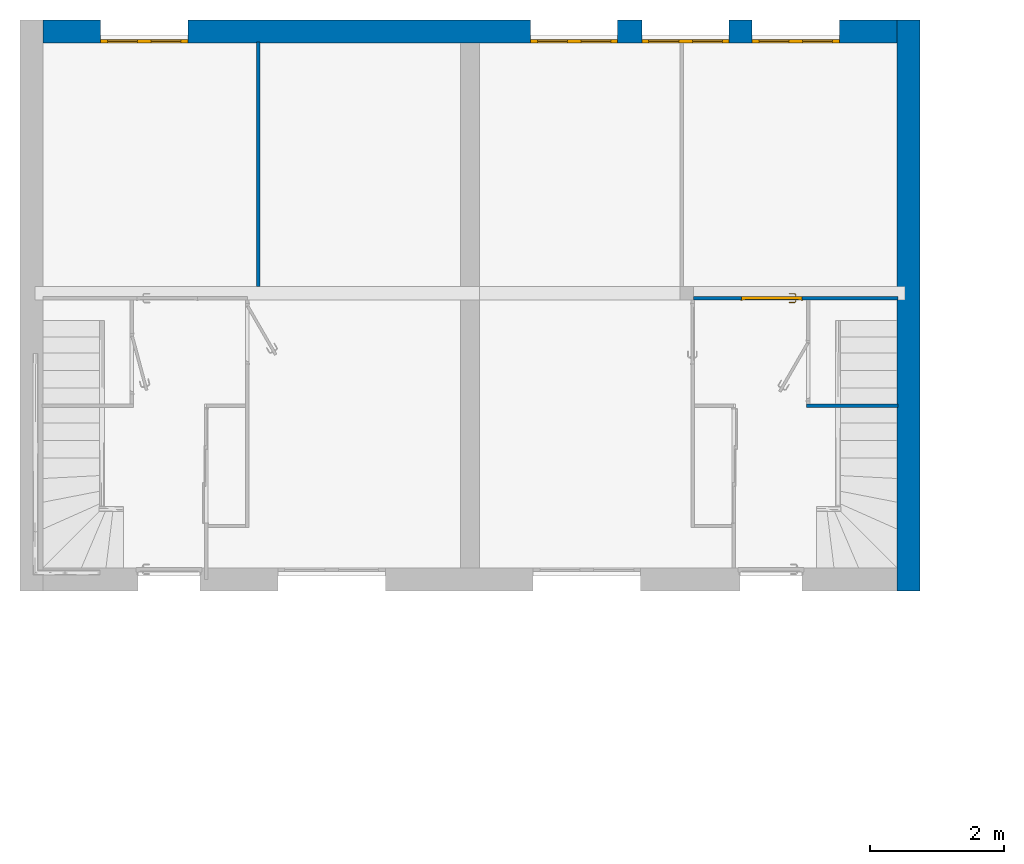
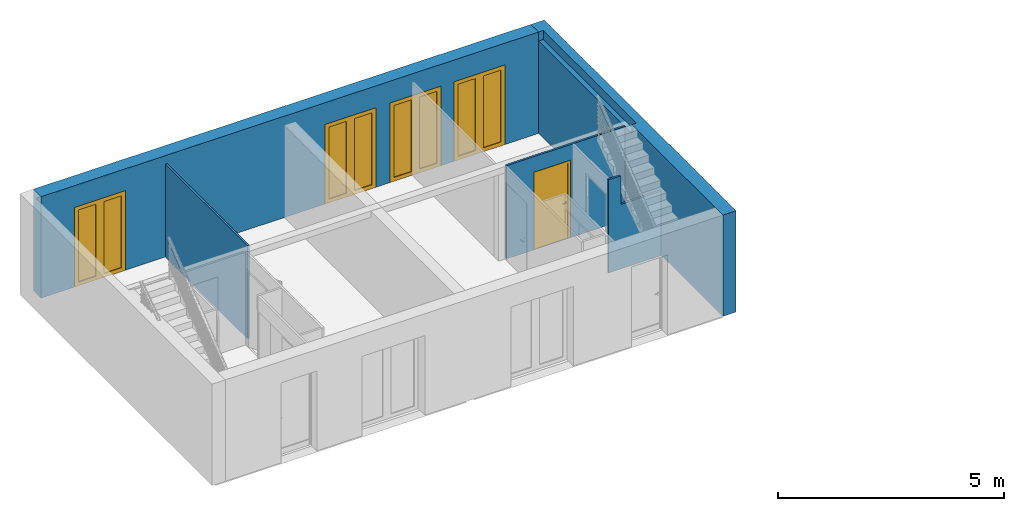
# One storey, part 5 of 12: 5 doors, 5 walls, 8 openings.
"""IFC2X3 building model written with IfcOpenShell, lengths in metres."""

from ifc_helpers import new_model, entity, si_unit, converted_unit, derived_unit, direction, frame, frame_2d, origin, origin_2d_with_axis, place, context, subcontext, project, spatial, polyline, rectangle, outline, extrude, faceted_brep, source, transform, mapped, material, material_list, layer, layer_set, layer_usage, type_object, type_shapes, element, fill, save


model = new_model("IFC2X3")

# Units and contexts
model_context = context("Model", 3, precision=1e-05, world=origin(), true_north=direction((6.12303176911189e-17, 1.0)))
context_of_model = context(None, 3, precision=1e-05, world=origin(), true_north=direction((6.12303176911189e-17, 1.0)))
body_context = subcontext(model_context, "Body", "Model", "MODEL_VIEW")
ifc_project = project(units=[si_unit("LENGTHUNIT", "METRE"), si_unit("AREAUNIT", "SQUARE_METRE"), si_unit("VOLUMEUNIT", "CUBIC_METRE"), converted_unit("PLANEANGLEUNIT", "DEGREE", entity("IfcRatioMeasure", 0.0174532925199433), si_unit("PLANEANGLEUNIT", "RADIAN"), dimensions=[0, 0, 0, 0, 0, 0, 0]), si_unit("MASSUNIT", "GRAM", prefix="KILO"), si_unit("TIMEUNIT", "SECOND"), si_unit("FREQUENCYUNIT", "HERTZ"), si_unit("THERMODYNAMICTEMPERATUREUNIT", "DEGREE_CELSIUS"), derived_unit("THERMALTRANSMITTANCEUNIT", [(si_unit("MASSUNIT", "GRAM", prefix="KILO"), 1), (si_unit("THERMODYNAMICTEMPERATUREUNIT", "KELVIN"), -1), (si_unit("TIMEUNIT", "SECOND"), -3)]), derived_unit("VOLUMETRICFLOWRATEUNIT", [(si_unit("LENGTHUNIT", "METRE"), 3), (si_unit("TIMEUNIT", "SECOND"), -1)]), si_unit("ELECTRICCURRENTUNIT", "AMPERE"), si_unit("ELECTRICVOLTAGEUNIT", "VOLT"), si_unit("POWERUNIT", "WATT"), si_unit("FORCEUNIT", "NEWTON", prefix="KILO"), si_unit("ILLUMINANCEUNIT", "LUX"), si_unit("LUMINOUSFLUXUNIT", "LUMEN"), si_unit("LUMINOUSINTENSITYUNIT", "CANDELA"), derived_unit("USERDEFINED", [(si_unit("MASSUNIT", "GRAM", prefix="KILO"), -1), (si_unit("LENGTHUNIT", "METRE"), -2), (si_unit("TIMEUNIT", "SECOND"), 3), (si_unit("LUMINOUSFLUXUNIT", "LUMEN"), 1)]), derived_unit("LINEARVELOCITYUNIT", [(si_unit("LENGTHUNIT", "METRE"), 1), (si_unit("TIMEUNIT", "SECOND"), -1)]), si_unit("PRESSUREUNIT", "PASCAL"), derived_unit("USERDEFINED", [(si_unit("LENGTHUNIT", "METRE"), -2), (si_unit("MASSUNIT", "GRAM", prefix="KILO"), 1), (si_unit("TIMEUNIT", "SECOND"), -2)])], contexts=[model_context, context_of_model])

# Site, building, storey
site_placement = place(None, origin())
site = spatial("IfcSite", under=ifc_project, at=site_placement, Name="Surface", CompositionType="ELEMENT")
building_placement = place(site_placement, origin())
building = spatial("IfcBuilding", under=site, at=building_placement, CompositionType="ELEMENT")
storey_placement = place(building_placement, origin())
storey = spatial("IfcBuildingStorey", under=building, at=storey_placement, Name="Rez de chaussée", CompositionType="ELEMENT", Elevation=0.0)

# Wall, openings
ifc_material_1 = material(Name="Maçonnerie - Isolant(1)")
ifc_layer_1 = layer(ifc_material_1, 0.05)
ifc_layer_set_1 = layer_set([ifc_layer_1], Name="Mur de base:Int. plâtre 50 mm")
ifc_layer_usage_1 = layer_usage(ifc_layer_set_1, "AXIS2", "NEGATIVE", 0.025)
wall_type_1 = type_object("IfcWallType", Name="Mur de base:Int. plâtre 50 mm", PredefinedType="STANDARD", material=ifc_layer_set_1)
wall_1_placement = place(storey_placement, frame((1.43391118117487, -0.0607442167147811, -0.00999999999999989), z_axis=(0.0, 0.0, 1.0), x_axis=(-1.0, 0.0, 0.0)))
wall_1 = element("IfcWallStandardCase", 1, at=wall_1_placement, inside=storey, type_object=wall_type_1, material=ifc_layer_usage_1, Name="Mur de base:Int. plâtre 50 mm", ObjectType="Mur de base:Int. plâtre 50 mm", context=body_context, shape_type="SweptSolid", body=[
    extrude(rectangle(XDim=1.35999999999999, YDim=0.05, at=frame_2d((0.679999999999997, -3.46944695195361e-18), x_axis=(-1.0, 0.0))), origin(), (0.0, 0.0, 1.0), 2.52),
])
opening_1_placement = place(wall_1_placement, origin())
element("IfcOpeningElement", 2, at=opening_1_placement, cuts=wall_1, Name="Mur de base:Int. plâtre 50 mm", ObjectType="Opening", context=body_context, shape_type="SweptSolid", body=[
    extrude(rectangle(XDim=3.12955139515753, YDim=6.25910279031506, at=frame_2d((-3.33066907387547e-16, -2.22044604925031e-16), x_axis=(1.0, 0.0))), frame((-1.21361778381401, -3.12955139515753, 2.92700669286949), z_axis=(0.0, 1.0, 0.0), x_axis=(0.540430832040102, 0.0, -0.841388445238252)), (0.0, 0.0, 1.0), 6.25910279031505),
])
opening_2_placement = place(wall_1_placement, origin())
element("IfcOpeningElement", 3, at=opening_2_placement, cuts=wall_1, Name="Mur de base:Int. plâtre 50 mm", ObjectType="Opening", context=body_context, shape_type="SweptSolid", body=[
    extrude(outline(polyline([(-0.515555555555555, -0.401330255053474), (0.257777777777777, -0.401330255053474), (0.257777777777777, 0.802660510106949), (-0.515555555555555, -0.401330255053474)])), frame((0.642660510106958, -0.025, 2.00177777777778), z_axis=(0.0, 1.0, 0.0), x_axis=(0.0, 0.0, -1.0)), (0.0, 0.0, 1.0), 0.05),
])

# Wall
ifc_layer_usage_2 = layer_usage(ifc_layer_set_1, "AXIS2", "NEGATIVE", 0.025)
wall_2_placement = place(storey_placement, frame((-8.09108881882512, 5.35425578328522, -0.00999999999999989), z_axis=(0.0, 0.0, 1.0), x_axis=(0.0, -1.0, 0.0)))
element("IfcWallStandardCase", 4, at=wall_2_placement, inside=storey, type_object=wall_type_1, material=ifc_layer_usage_2, Name="Mur de base:Int. plâtre 50 mm", ObjectType="Mur de base:Int. plâtre 50 mm", context=body_context, shape_type="SweptSolid", body=[
    extrude(rectangle(XDim=3.64, YDim=0.0499999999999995, at=frame_2d((1.82, 0.0), x_axis=(-1.0, 0.0))), origin(), (0.0, 0.0, 1.0), 2.52),
])

# Wall, opening, door
ifc_layer_usage_3 = layer_usage(ifc_layer_set_1, "AXIS2", "NEGATIVE", 0.025)
wall_3_placement = place(storey_placement, frame((-1.60608881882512, 1.53925578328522, -0.00999999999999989)))
wall_3 = element("IfcWallStandardCase", 5, at=wall_3_placement, inside=storey, type_object=wall_type_1, material=ifc_layer_usage_3, Name="Mur de base:Int. plâtre 50 mm", ObjectType="Mur de base:Int. plâtre 50 mm", context=body_context, shape_type="SweptSolid", body=[
    extrude(rectangle(XDim=3.03999999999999, YDim=0.05, at=frame_2d((1.52, 0.0), x_axis=(-1.0, 0.0))), origin(), (0.0, 0.0, 1.0), 2.52),
])
opening_3_placement = place(wall_3_placement, frame((0.714999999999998, -0.025, 0.00999999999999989)))
opening_3 = element("IfcOpeningElement", 6, at=opening_3_placement, cuts=wall_3, Name="Int. Simple:PP (0.83m x 2.04m):1", ObjectType="Opening", context=body_context, shape_type="SweptSolid", body=[
    extrude(rectangle(XDim=2.075, YDim=0.9, at=frame_2d((1.0375, 0.45), x_axis=(1.0, 0.0))), frame((0.0, 0.0, 0.0), z_axis=(0.0, 1.0, 0.0), x_axis=(0.0, 0.0, 1.0)), (0.0, 0.0, 1.0), 0.05),
])
ifc_material_2 = material(Name="Finition Peinture - Blanc satiné")
ifc_material_3 = material(Name="Bois - Panneau de porte")
ifc_material_4 = material(Name="Bois - Cadre de porte")
ifc_material_list_1 = material_list([ifc_material_2, ifc_material_3, ifc_material_4])
ifc_material_list_2 = material_list([ifc_material_2, ifc_material_3, ifc_material_4])
door_style_1 = type_object("IfcDoorStyle", Name="PP (0.83m x 2.04m)", ConstructionType="NOTDEFINED", OperationType="SINGLE_SWING_LEFT", ParameterTakesPrecedence=False, Sizeable=False, material=ifc_material_list_2)
shared_shape_1 = source(origin(), body_context, "Body", "Brep", [
    faceted_brep([(0.105352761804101, -0.00500000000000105, 0.866003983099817), (0.115, -0.00500000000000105, 0.870000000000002), (0.114999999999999, -0.00500000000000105, 1.08), (0.1053527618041, -0.00500000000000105, 1.08399601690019), (0.0949999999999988, -0.00500000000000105, 1.08535898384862), (0.0846472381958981, -0.00500000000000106, 1.08399601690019), (0.0749999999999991, -0.00500000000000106, 1.08), (0.0750000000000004, -0.00500000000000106, 0.870000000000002), (0.0846472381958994, -0.00500000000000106, 0.866003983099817), (0.0950000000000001, -0.00500000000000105, 0.86464101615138), (0.1053527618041, 0.0, 1.08399601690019), (0.114999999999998, 0.0, 1.08), (0.115, 0.0, 0.870000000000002), (0.105352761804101, 0.0, 0.866003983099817), (0.0950000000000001, 0.0, 0.86464101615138), (0.0846472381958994, 0.0, 0.866003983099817), (0.0749999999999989, 0.0, 0.870000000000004), (0.0749999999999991, 0.0, 1.08), (0.0846472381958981, 0.0, 1.08399601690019), (0.0949999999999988, 0.0, 1.08535898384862)], [[[0, 1, 2, 3, 4, 5, 6, 7, 8, 9]], [[10, 11, 12, 13, 14, 15, 16, 17, 18, 19]], [[16, 15, 8, 7]], [[8, 15, 14, 9]], [[14, 13, 0, 9]], [[13, 12, 1, 0]], [[2, 1, 12, 11]], [[11, 10, 3, 2]], [[3, 10, 19, 4]], [[19, 18, 5, 4]], [[18, 17, 6, 5]], [[7, 6, 17, 16]]]),
    faceted_brep([(0.105352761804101, 0.0399999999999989, 0.866003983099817), (0.115, 0.0399999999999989, 0.870000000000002), (0.114999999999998, 0.0399999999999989, 1.08), (0.105352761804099, 0.0399999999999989, 1.08399601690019), (0.0949999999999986, 0.0399999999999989, 1.08535898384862), (0.084647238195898, 0.0399999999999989, 1.08399601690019), (0.0749999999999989, 0.0399999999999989, 1.08), (0.0750000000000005, 0.0399999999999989, 0.870000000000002), (0.0846472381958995, 0.0399999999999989, 0.866003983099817), (0.0950000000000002, 0.0399999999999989, 0.86464101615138), (0.105352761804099, 0.0449999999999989, 1.08399601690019), (0.114999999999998, 0.0449999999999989, 1.08), (0.115, 0.0449999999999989, 0.870000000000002), (0.105352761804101, 0.0449999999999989, 0.866003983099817), (0.0950000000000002, 0.0449999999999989, 0.86464101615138), (0.0846472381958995, 0.0449999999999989, 0.866003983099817), (0.0749999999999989, 0.0449999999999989, 0.870000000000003), (0.0749999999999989, 0.0449999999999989, 1.08), (0.084647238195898, 0.0449999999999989, 1.08399601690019), (0.0949999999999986, 0.0449999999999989, 1.08535898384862)], [[[0, 1, 2, 3, 4, 5, 6, 7, 8, 9]], [[10, 11, 12, 13, 14, 15, 16, 17, 18, 19]], [[11, 10, 3, 2]], [[3, 10, 19, 4]], [[19, 18, 5, 4]], [[18, 17, 6, 5]], [[7, 6, 17, 16]], [[16, 15, 8, 7]], [[8, 15, 14, 9]], [[14, 13, 0, 9]], [[13, 12, 1, 0]], [[2, 1, 12, 11]]]),
    faceted_brep([(0.0929747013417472, -0.00500000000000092, 1.00778044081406), (0.0970252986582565, -0.0050000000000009, 1.00778044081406), (0.101000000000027, -0.00500000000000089, 1.00699999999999), (0.101000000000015, -0.00500000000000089, 0.993000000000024), (0.0970252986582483, -0.0050000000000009, 0.992219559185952), (0.0929747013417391, -0.00500000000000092, 0.99221955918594), (0.0889999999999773, -0.00500000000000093, 0.992999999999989), (0.0889999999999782, -0.00500000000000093, 1.007), (0.0889999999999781, -0.0326509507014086, 1.007), (0.092974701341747, -0.0310045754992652, 1.00778044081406), (0.10902358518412, -0.0470534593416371, 1.00778044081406), (0.110701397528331, -0.0430028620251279, 1.00778044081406), (0.0970252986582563, -0.0293267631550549, 1.00778044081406), (0.101000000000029, -0.0276803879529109, 1.007), (0.101000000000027, -0.0276803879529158, 0.993000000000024), (0.0970252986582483, -0.0293267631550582, 0.992219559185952), (0.110701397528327, -0.0430028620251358, 0.992219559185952), (0.109023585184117, -0.047053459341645, 0.99221955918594), (0.0929747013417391, -0.0310045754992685, 0.99221955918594), (0.0889999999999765, -0.0326509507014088, 0.992999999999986), (0.107377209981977, -0.0510281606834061, 1.007), (0.112347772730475, -0.0390281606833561, 1.007), (0.112347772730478, -0.0390281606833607, 0.993000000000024), (0.107377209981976, -0.0510281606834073, 0.992999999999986), (0.195018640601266, -0.0510281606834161, 0.992999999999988), (0.195018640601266, -0.0470534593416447, 0.99221955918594), (0.195018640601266, -0.0430028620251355, 0.992219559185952), (0.195018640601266, -0.039028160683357, 0.993000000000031), (0.195018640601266, -0.0390281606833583, 1.007), (0.195018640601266, -0.0430028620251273, 1.00778044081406), (0.195018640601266, -0.0470534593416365, 1.00778044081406), (0.195018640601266, -0.0510281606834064, 1.00699999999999), (0.147307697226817, -0.0510281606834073, 1.007), (0.152860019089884, -0.045028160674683, 1.0078786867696), (0.15368320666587, -0.039028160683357, 1.007), (0.153683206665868, -0.0390281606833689, 0.993000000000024), (0.152860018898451, -0.0450281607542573, 0.992121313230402), (0.147307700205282, -0.0510281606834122, 0.992999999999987)], [[[0, 1, 2, 3, 4, 5, 6, 7]], [[8, 9, 0, 7]], [[9, 10, 11, 12, 1, 0]], [[12, 13, 2, 1]], [[3, 2, 13, 14]], [[14, 15, 4, 3]], [[15, 16, 17, 18, 5, 4]], [[18, 19, 6, 5]], [[7, 6, 19, 8]], [[20, 10, 9, 8]], [[11, 21, 13, 12]], [[14, 13, 21, 22]], [[22, 16, 15, 14]], [[17, 23, 19, 18]], [[8, 19, 23, 20]], [[24, 25, 26, 27, 28, 29, 30, 31]], [[32, 30, 33]], [[31, 30, 32]], [[10, 20, 32]], [[33, 34, 11]], [[21, 11, 34]], [[34, 29, 28]], [[30, 29, 33]], [[29, 34, 33]], [[10, 32, 33]], [[10, 33, 11]], [[22, 21, 34, 28, 27, 35]], [[35, 26, 36]], [[37, 36, 25]], [[22, 35, 16]], [[35, 27, 26]], [[24, 37, 25]], [[23, 17, 37]], [[37, 17, 36]], [[17, 16, 36]], [[16, 35, 36]], [[25, 36, 26]], [[20, 23, 37, 24, 31, 32]]]),
    faceted_brep([(0.0929747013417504, 0.0449999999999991, 1.00778044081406), (0.0889999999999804, 0.044999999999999, 1.007), (0.0889999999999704, 0.044999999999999, 0.992999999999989), (0.0929747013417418, 0.0449999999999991, 0.99221955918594), (0.0970252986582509, 0.0449999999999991, 0.992219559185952), (0.10100000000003, 0.0449999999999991, 0.993000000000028), (0.101000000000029, 0.0449999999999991, 1.007), (0.0970252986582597, 0.0449999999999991, 1.00778044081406), (0.10100000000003, 0.067485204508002, 0.993000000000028), (0.10100000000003, 0.0674852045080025, 1.007), (0.0970252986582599, 0.0691315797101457, 1.00778044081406), (0.110838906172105, 0.0829451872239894, 1.00778044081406), (0.109161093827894, 0.0869957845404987, 1.00778044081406), (0.0929747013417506, 0.070809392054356, 1.00778044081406), (0.0889999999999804, 0.0724557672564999, 1.007), (0.0889999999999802, 0.072455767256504, 0.992999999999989), (0.0929747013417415, 0.0708093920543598, 0.99221955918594), (0.109161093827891, 0.0869957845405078, 0.99221955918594), (0.110838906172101, 0.0829451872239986, 0.992219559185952), (0.0970252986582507, 0.0691315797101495, 0.992219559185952), (0.112485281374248, 0.0789704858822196, 0.993000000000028), (0.112485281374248, 0.0789704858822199, 1.007), (0.107514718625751, 0.0909704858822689, 1.007), (0.107514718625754, 0.090970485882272, 0.992999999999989), (0.195045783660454, 0.0789704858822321, 0.993000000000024), (0.195045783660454, 0.0829451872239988, 0.992219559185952), (0.195045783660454, 0.086995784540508, 0.99221955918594), (0.195045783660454, 0.0909704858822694, 0.992999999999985), (0.195045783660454, 0.0909704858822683, 1.007), (0.195045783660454, 0.0869957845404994, 1.00778044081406), (0.195045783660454, 0.0829451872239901, 1.00778044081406), (0.195045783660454, 0.0789704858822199, 1.007), (0.153765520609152, 0.0789704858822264, 0.993000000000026), (0.153765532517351, 0.0789704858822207, 1.007), (0.152942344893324, 0.0849704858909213, 1.0078786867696), (0.147445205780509, 0.0909704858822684, 1.007), (0.147445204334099, 0.0909704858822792, 0.992999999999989), (0.152942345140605, 0.0849704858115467, 0.992121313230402)], [[[0, 1, 2, 3, 4, 5, 6, 7]], [[6, 5, 8, 9]], [[9, 10, 7, 6]], [[10, 11, 12, 13, 0, 7]], [[13, 14, 1, 0]], [[2, 1, 14, 15]], [[15, 16, 3, 2]], [[16, 17, 18, 19, 4, 3]], [[19, 8, 5, 4]], [[9, 8, 20, 21]], [[21, 11, 10, 9]], [[12, 22, 14, 13]], [[15, 14, 22, 23]], [[23, 17, 16, 15]], [[18, 20, 8, 19]], [[24, 25, 26, 27, 28, 29, 30, 31]], [[21, 20, 32, 24, 31, 33]], [[33, 30, 34]], [[35, 34, 29]], [[21, 33, 11]], [[33, 31, 30]], [[28, 35, 29]], [[22, 12, 35]], [[35, 12, 34]], [[12, 11, 34]], [[11, 33, 34]], [[29, 34, 30]], [[22, 35, 28, 27, 36, 23]], [[36, 26, 37]], [[27, 26, 36]], [[17, 23, 36]], [[37, 32, 18]], [[20, 18, 32]], [[32, 25, 24]], [[26, 25, 37]], [[25, 32, 37]], [[17, 36, 37]], [[17, 37, 18]]]),
    faceted_brep([(0.034999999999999, 0.04, 2.04), (0.865, 0.04, 2.04), (0.864999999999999, 0.04, 0.0), (0.034999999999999, 0.04, 0.0), (0.034999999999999, 0.0, 2.04), (0.034999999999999, 0.0, 0.0), (0.864999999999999, 0.0, 0.0), (0.865, 0.0, 2.04)], [[[0, 1, 2, 3]], [[4, 5, 6, 7]], [[1, 0, 4, 7]], [[2, 1, 7, 6]], [[3, 2, 6, 5]], [[0, 3, 5, 4]]]),
    faceted_brep([(0.0, 0.0, 0.0), (0.0, 0.050000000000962, 0.0), (0.0499999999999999, 0.050000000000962, 0.0), (0.0499999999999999, 0.040000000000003, 0.0), (0.0349999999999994, 0.040000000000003, 0.0), (0.0349999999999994, 0.0, 0.0), (0.0, 0.0, 2.07500000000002), (0.0, 0.050000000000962, 2.07500000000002), (0.900000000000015, 0.050000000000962, 2.07500000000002), (0.900000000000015, 0.050000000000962, 0.0), (0.85, 0.050000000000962, 0.0), (0.85, 0.050000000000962, 2.025), (0.0500000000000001, 0.050000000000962, 2.025), (0.05, 0.040000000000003, 2.025), (0.85, 0.040000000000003, 2.025), (0.85, 0.040000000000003, 0.0), (0.865, 0.040000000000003, 0.0), (0.865, 0.040000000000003, 2.04), (0.0349999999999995, 0.040000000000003, 2.04), (0.0349999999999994, 0.0, 2.04), (0.865, 0.0, 2.04), (0.865, 0.0, 0.0), (0.900000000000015, 0.0, 0.0), (0.900000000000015, 0.0, 2.07500000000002)], [[[0, 1, 2, 3, 4, 5]], [[1, 0, 6, 7]], [[2, 1, 7, 8, 9, 10, 11, 12]], [[3, 2, 12, 13]], [[4, 3, 13, 14, 15, 16, 17, 18]], [[5, 4, 18, 19]], [[0, 5, 19, 20, 21, 22, 23, 6]], [[8, 23, 22, 9]], [[22, 21, 16, 15, 10, 9]], [[14, 11, 10, 15]], [[20, 17, 16, 21]], [[7, 6, 23, 8]], [[13, 12, 11, 14]], [[19, 18, 17, 20]]]),
    faceted_brep([(0.0149999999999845, 0.050000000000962, 0.0), (-0.0150000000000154, 0.050000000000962, 0.0), (-0.0150000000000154, 0.055000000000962, 0.0), (0.0149999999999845, 0.055000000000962, 0.0), (0.0149999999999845, 0.050000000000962, 2.06000000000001), (0.884999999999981, 0.050000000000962, 2.06000000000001), (0.88499999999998, 0.050000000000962, 0.0), (0.91499999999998, 0.050000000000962, 0.0), (0.91499999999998, 0.050000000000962, 2.09000000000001), (-0.0150000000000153, 0.050000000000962, 2.09000000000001), (-0.0150000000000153, 0.055000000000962, 2.09000000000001), (0.91499999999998, 0.055000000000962, 2.09000000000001), (0.91499999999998, 0.055000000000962, 0.0), (0.88499999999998, 0.055000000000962, 0.0), (0.88499999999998, 0.055000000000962, 2.06000000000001), (0.0149999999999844, 0.055000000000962, 2.06000000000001)], [[[0, 1, 2, 3]], [[1, 0, 4, 5, 6, 7, 8, 9]], [[2, 1, 9, 10]], [[3, 2, 10, 11, 12, 13, 14, 15]], [[0, 3, 15, 4]], [[6, 13, 12, 7]], [[5, 14, 13, 6]], [[11, 8, 7, 12]], [[10, 9, 8, 11]], [[4, 15, 14, 5]]]),
    faceted_brep([(-0.0150000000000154, -0.005, 0.0), (0.0149999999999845, -0.005, 0.0), (0.0149999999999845, -0.005, 2.06000000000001), (0.884999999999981, -0.005, 2.06000000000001), (0.88499999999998, -0.005, 0.0), (0.91499999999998, -0.005, 0.0), (0.91499999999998, -0.005, 2.09000000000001), (-0.0150000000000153, -0.005, 2.09000000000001), (-0.0150000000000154, 0.0, 0.0), (-0.0150000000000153, 0.0, 2.09000000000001), (0.0149999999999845, 0.0, 0.0), (0.91499999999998, 0.0, 2.09000000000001), (0.91499999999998, 0.0, 0.0), (0.88499999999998, 0.0, 0.0), (0.88499999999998, 0.0, 2.06000000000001), (0.0149999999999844, 0.0, 2.06000000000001)], [[[0, 1, 2, 3, 4, 5, 6, 7]], [[8, 0, 7, 9]], [[10, 8, 9, 11, 12, 13, 14, 15]], [[1, 10, 15, 2]], [[3, 14, 13, 4]], [[11, 6, 5, 12]], [[9, 7, 6, 11]], [[2, 15, 14, 3]], [[4, 13, 12, 5]], [[1, 0, 8, 10]]]),
])
type_shapes(door_style_1, [shared_shape_1])
door_1_placement = place(opening_3_placement, frame((0.9, 0.0499999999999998, 0.0), z_axis=(0.0, 0.0, 1.0), x_axis=(-1.0, 0.0, 0.0)))
door_1 = element("IfcDoor", 7, at=door_1_placement, inside=storey, type_object=door_style_1, material=ifc_material_list_1, Name="Int. Simple:PP (0.83m x 2.04m)", ObjectType="PP (0.83m x 2.04m)", OverallHeight=2.075, OverallWidth=0.9, context=body_context, shape_type="MappedRepresentation", body=[
    mapped(shared_shape_1, transform((0.0, 0.0, 0.0), scale=1.0)),
])
fill(opening_3, door_1)

# Wall, opening
ifc_material_5 = material(Name="Maçonnerie - Enduit")
ifc_layer_2 = layer(ifc_material_5, 0.02)
ifc_material_6 = material(Name="Maçonnerie - Parpaing")
ifc_layer_3 = layer(ifc_material_6, 0.2)
ifc_material_7 = material(Name="Maçonnerie - Isolant")
ifc_layer_4 = layer(ifc_material_7, 0.11)
ifc_material_8 = material(Name="Maçonnerie - Isolant 1")
ifc_layer_5 = layer(ifc_material_8, 0.01)
ifc_layer_set_2 = layer_set([ifc_layer_2, ifc_layer_3, ifc_layer_4, ifc_layer_5], Name="Mur de base:Mur de base Ext. Parpaing 20 + Isolant 12")
ifc_layer_usage_4 = layer_usage(ifc_layer_set_2, "AXIS2", "NEGATIVE", 0.17)
wall_type_2 = type_object("IfcWallType", Name="Mur de base:Mur de base Ext. Parpaing 20 + Isolant 12", PredefinedType="STANDARD", material=ifc_layer_set_2)
wall_4_placement = place(storey_placement, frame((1.59391118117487, 5.68425578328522, 0.0), z_axis=(0.0, 0.0, 1.0), x_axis=(0.0, -1.0, 0.0)))
wall_4 = element("IfcWallStandardCase", 8, at=wall_4_placement, inside=storey, type_object=wall_type_2, material=ifc_layer_usage_4, Name="Mur de base:Mur de base Ext. Parpaing 20 + Isolant 12", ObjectType="Mur de base:Mur de base Ext. Parpaing 20 + Isolant 12", context=body_context, shape_type="SweptSolid", body=[
    extrude(rectangle(XDim=8.50000000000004, YDim=0.34, at=frame_2d((4.25000000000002, 0.0), x_axis=(-1.0, 0.0))), origin(), (0.0, 0.0, 1.0), 2.74),
])
opening_4_placement = place(wall_4_placement, frame((8.50000000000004, -0.17, 2.498)))
element("IfcOpeningElement", 9, at=opening_4_placement, cuts=wall_4, Name="Mur de base:Mur de base Ext. Parpaing 20 + Isolant 12", ObjectType="Recess", context=body_context, shape_type="Brep", body=[
    faceted_brep([(-4.03171265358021, 0.0, 8.91925297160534), (-4.03171265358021, 0.12, 8.91925297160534), (-8.16, 0.12, 8.91925297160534), (-8.16, 0.0, 8.91925297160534), (-4.03171265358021, 0.0, 0.0), (-8.16, 0.0, 0.0), (-8.16, 0.12, 0.0), (-4.03171265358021, 0.12, 0.0), (-4.03171265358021, 0.12, 0.242000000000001), (-4.03171265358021, 0.0, 0.242000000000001), (-8.16, 0.12, 0.242000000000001), (-8.16, 0.12, 9.16125297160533), (-8.16, 0.34, 9.16125297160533), (-8.16, 0.34, 0.242000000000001), (0.0, 0.0, 0.242000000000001), (0.0, 0.0, 9.16125297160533), (-4.03171265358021, 0.0, 9.16125297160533), (0.0, 0.34, 9.16125297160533), (-4.03171265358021, 0.12, 9.16125297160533), (0.0, 0.34, 0.242000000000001)], [[[0, 1, 2, 3]], [[4, 5, 6, 7]], [[7, 8, 9, 4]], [[6, 10, 8, 7]], [[2, 11, 12, 13, 10, 6, 5, 3]], [[3, 5, 4, 9, 14, 15, 16, 0]], [[15, 17, 12, 11, 18, 16]], [[9, 8, 10, 13, 19, 14]], [[14, 19, 17, 15]], [[18, 1, 0, 16]], [[17, 19, 13, 12]], [[2, 1, 18, 11]]]),
])

# Wall, openings, doors
ifc_layer_usage_5 = layer_usage(ifc_layer_set_2, "AXIS2", "NEGATIVE", 0.17)
wall_5_placement = place(storey_placement, frame((-11.2960888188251, 5.51425578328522, 0.0)))
wall_5 = element("IfcWallStandardCase", 10, at=wall_5_placement, inside=storey, type_object=wall_type_2, material=ifc_layer_usage_5, Name="Mur de base:Mur de base Ext. Parpaing 20 + Isolant 12", ObjectType="Mur de base:Mur de base Ext. Parpaing 20 + Isolant 12", context=body_context, shape_type="SweptSolid", body=[
    extrude(rectangle(XDim=12.72, YDim=0.340000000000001, at=frame_2d((6.35999999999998, 0.0), x_axis=(-1.0, 0.0))), origin(), (0.0, 0.0, 1.0), 2.74),
])
opening_5_placement = place(wall_5_placement, frame((8.56, 0.169999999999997, 0.0)))
opening_5 = element("IfcOpeningElement", 11, at=opening_5_placement, cuts=wall_5, Name="Double-Glass 1_no trim:PF 1.30 x 2.15:1", ObjectType="Opening", context=body_context, shape_type="SweptSolid", body=[
    extrude(rectangle(XDim=1.3, YDim=2.15, at=frame_2d((1.075, 0.65), x_axis=(0.0, 1.0))), frame((0.0, 0.0, 0.0), z_axis=(0.0, -1.0, 0.0), x_axis=(0.0, 0.0, 1.0)), (0.0, 0.0, 1.0), 0.34),
])
opening_6_placement = place(wall_5_placement, frame((11.86, 0.169999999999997, 0.0)))
opening_6 = element("IfcOpeningElement", 12, at=opening_6_placement, cuts=wall_5, Name="Double-Glass 1_no trim:PF 1.30 x 2.15:1", ObjectType="Opening", context=body_context, shape_type="SweptSolid", body=[
    extrude(rectangle(XDim=1.3, YDim=2.15, at=frame_2d((1.075, 0.65), x_axis=(0.0, 1.0))), frame((0.0, 0.0, 0.0), z_axis=(0.0, -1.0, 0.0), x_axis=(0.0, 0.0, 1.0)), (0.0, 0.0, 1.0), 0.34),
])
opening_7_placement = place(wall_5_placement, frame((10.22, 0.169999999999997, 0.0)))
opening_7 = element("IfcOpeningElement", 13, at=opening_7_placement, cuts=wall_5, Name="Double-Glass 1_no trim:PF 1.30 x 2.15:1", ObjectType="Opening", context=body_context, shape_type="SweptSolid", body=[
    extrude(rectangle(XDim=1.3, YDim=2.15, at=frame_2d((1.075, 0.65), x_axis=(0.0, 1.0))), frame((0.0, 0.0, 0.0), z_axis=(0.0, -1.0, 0.0), x_axis=(0.0, 0.0, 1.0)), (0.0, 0.0, 1.0), 0.34),
])
opening_8_placement = place(wall_5_placement, frame((2.16, 0.170000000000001, 0.0)))
opening_8 = element("IfcOpeningElement", 14, at=opening_8_placement, cuts=wall_5, Name="Double-Glass 1_no trim:PF 1.30 x 2.15:1", ObjectType="Opening", context=body_context, shape_type="SweptSolid", body=[
    extrude(rectangle(XDim=1.3, YDim=2.15, at=frame_2d((1.075, 0.65), x_axis=(0.0, -1.0))), frame((0.0, 0.0, 0.0), z_axis=(0.0, -1.0, 0.0), x_axis=(0.0, 0.0, 1.0)), (0.0, 0.0, 1.0), 0.34),
])
ifc_material_9 = material(Name="Glass")
ifc_material_10 = material(Name="PVC - Blanc")
ifc_material_list_3 = material_list([ifc_material_9, ifc_material_10])
ifc_material_list_4 = material_list([ifc_material_9, ifc_material_10])
door_style_2 = type_object("IfcDoorStyle", Name="PF 1.30 x 2.15", ConstructionType="NOTDEFINED", OperationType="DOUBLE_DOOR_SINGLE_SWING", ParameterTakesPrecedence=False, Sizeable=False, material=ifc_material_list_4)
shared_shape_2 = source(origin(), body_context, "Body", "SweptSolid", [
    extrude(rectangle(XDim=0.00714374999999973, YDim=0.4468, at=frame_2d((0.0, -2.77555756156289e-17), x_axis=(1.0, 0.0))), frame((0.975, 0.318171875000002, 0.1016), z_axis=(0.0, 0.0, 1.0), x_axis=(0.0, 1.0, 0.0)), (0.0, 0.0, 1.0), 1.9468),
    extrude(rectangle(XDim=0.00714374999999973, YDim=0.4468, at=origin_2d_with_axis()), frame((0.325000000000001, 0.318171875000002, 0.1016), z_axis=(0.0, 0.0, 1.0), x_axis=(0.0, 1.0, 0.0)), (0.0, 0.0, 1.0), 1.9468),
    extrude(outline(polyline([(-1.075, -0.650000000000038), (1.075, -0.650000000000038), (1.075, 0.650000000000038), (-1.075, 0.650000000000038), (-1.075, -0.650000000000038)]), holes=[polyline([(-0.973399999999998, 0.101600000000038), (-0.973399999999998, 0.548400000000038), (0.973399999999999, 0.548400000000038), (0.973399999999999, 0.101600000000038), (-0.973399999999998, 0.101600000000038)]), polyline([(-0.973399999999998, -0.548399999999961), (-0.973399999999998, -0.101599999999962), (0.973399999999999, -0.101599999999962), (0.973399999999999, -0.548399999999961), (-0.973399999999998, -0.548399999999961)])]), frame((0.650000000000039, 0.289200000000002, 1.075), z_axis=(0.0, 1.0, 0.0), x_axis=(0.0, 0.0, -1.0)), (0.0, 0.0, 1.0), 0.0508),
])
type_shapes(door_style_2, [shared_shape_2])
door_2_placement = place(opening_5_placement, frame((0.0, 0.0, 0.0), z_axis=(0.0, 0.0, 1.0), x_axis=(-1.0, 0.0, 0.0)))
door_2 = element("IfcDoor", 15, at=door_2_placement, inside=storey, type_object=door_style_2, material=ifc_material_list_3, Name="Double-Glass 1_no trim:PF 1.30 x 2.15", ObjectType="PF 1.30 x 2.15", OverallHeight=2.15, OverallWidth=1.3, context=body_context, shape_type="MappedRepresentation", body=[
    mapped(shared_shape_2, transform((0.0, 0.0, 0.0), scale=1.0)),
])
fill(opening_5, door_2)
ifc_material_list_5 = material_list([ifc_material_9, ifc_material_10])
door_3_placement = place(opening_6_placement, frame((0.0, 0.0, 0.0), z_axis=(0.0, 0.0, 1.0), x_axis=(-1.0, 0.0, 0.0)))
door_3 = element("IfcDoor", 16, at=door_3_placement, inside=storey, type_object=door_style_2, material=ifc_material_list_5, Name="Double-Glass 1_no trim:PF 1.30 x 2.15", ObjectType="PF 1.30 x 2.15", OverallHeight=2.15, OverallWidth=1.3, context=body_context, shape_type="MappedRepresentation", body=[
    mapped(shared_shape_2, transform((0.0, 0.0, 0.0), scale=1.0)),
])
fill(opening_6, door_3)
ifc_material_list_6 = material_list([ifc_material_9, ifc_material_10])
door_4_placement = place(opening_7_placement, frame((0.0, 0.0, 0.0), z_axis=(0.0, 0.0, 1.0), x_axis=(-1.0, 0.0, 0.0)))
door_4 = element("IfcDoor", 17, at=door_4_placement, inside=storey, type_object=door_style_2, material=ifc_material_list_6, Name="Double-Glass 1_no trim:PF 1.30 x 2.15", ObjectType="PF 1.30 x 2.15", OverallHeight=2.15, OverallWidth=1.3, context=body_context, shape_type="MappedRepresentation", body=[
    mapped(shared_shape_2, transform((0.0, 0.0, 0.0), scale=1.0)),
])
fill(opening_7, door_4)
ifc_material_list_7 = material_list([ifc_material_9, ifc_material_10])
ifc_material_list_8 = material_list([ifc_material_9, ifc_material_10])
door_style_3 = type_object("IfcDoorStyle", Name="PF 1.30 x 2.15", ConstructionType="NOTDEFINED", OperationType="DOUBLE_DOOR_SINGLE_SWING", ParameterTakesPrecedence=False, Sizeable=False, material=ifc_material_list_8)
shared_shape_3 = source(origin(), body_context, "Body", "SweptSolid", [
    extrude(rectangle(XDim=0.4468, YDim=0.00714374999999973, at=frame_2d((2.77555756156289e-17, 0.0), x_axis=(1.0, 0.0))), frame((0.325000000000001, 0.322934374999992, 0.1016)), (0.0, 0.0, 1.0), 1.9468),
    extrude(rectangle(XDim=0.4468, YDim=0.00714374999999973, at=origin_2d_with_axis()), frame((0.975000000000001, 0.322934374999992, 0.1016)), (0.0, 0.0, 1.0), 1.9468),
    extrude(outline(polyline([(-1.075, -0.650000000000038), (1.075, -0.650000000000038), (1.075, 0.650000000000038), (-1.075, 0.650000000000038), (-1.075, -0.650000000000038)]), holes=[polyline([(-0.973399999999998, 0.101600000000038), (-0.973399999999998, 0.548400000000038), (0.973399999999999, 0.548400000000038), (0.973399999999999, 0.101600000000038), (-0.973399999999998, 0.101600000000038)]), polyline([(-0.973399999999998, -0.548399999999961), (-0.973399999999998, -0.101599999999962), (0.973399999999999, -0.101599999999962), (0.973399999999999, -0.548399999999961), (-0.973399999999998, -0.548399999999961)])]), frame((0.649999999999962, 0.344762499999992, 1.075), z_axis=(0.0, -1.0, 0.0), x_axis=(0.0, 0.0, -1.0)), (0.0, 0.0, 1.0), 0.0508),
])
type_shapes(door_style_3, [shared_shape_3])
door_5_placement = place(opening_8_placement, frame((0.0, 0.00476249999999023, 0.0), z_axis=(0.0, 0.0, 1.0), x_axis=(-1.0, 0.0, 0.0)))
door_5 = element("IfcDoor", 18, at=door_5_placement, inside=storey, type_object=door_style_3, material=ifc_material_list_7, Name="Double-Glass 1_no trim:PF 1.30 x 2.15", ObjectType="PF 1.30 x 2.15", OverallHeight=2.15, OverallWidth=1.3, context=body_context, shape_type="MappedRepresentation", body=[
    mapped(shared_shape_3, transform((0.0, 0.0, 0.0), scale=1.0)),
])
fill(opening_8, door_5)

save(model, "model.ifc")
